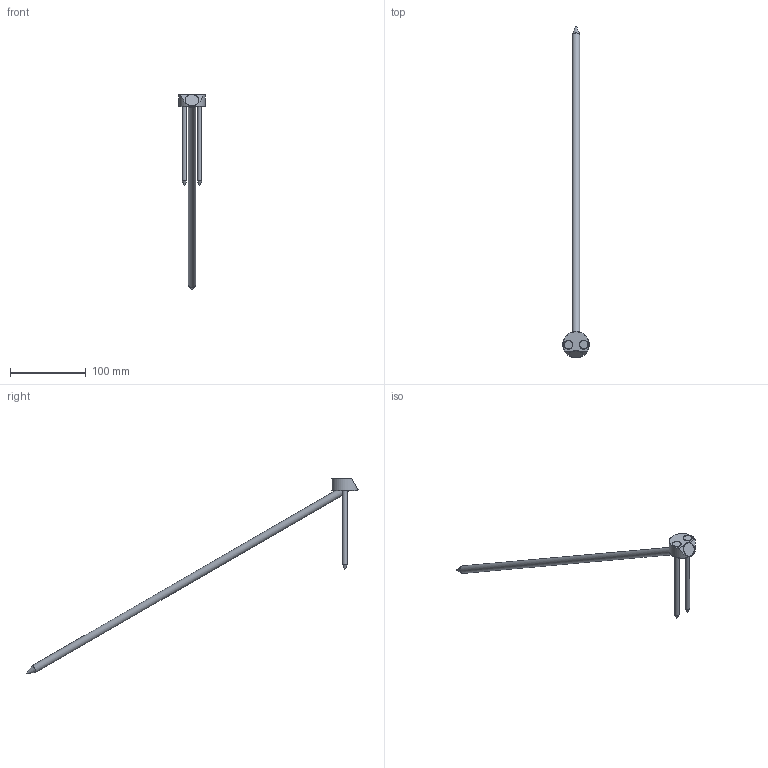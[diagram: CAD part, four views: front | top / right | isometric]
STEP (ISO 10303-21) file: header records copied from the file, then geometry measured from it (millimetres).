
FILE_DESCRIPTION(/* description */ ('Unknown'),/* implementation_level */ '2;1');
FILE_NAME(/* name */ 'T-Joint_D35_W30_2xSK6x120_1xSK10x500',/* time_stamp */ '2020-07-13T10:12:09+02:00',/* author */ ('Unknown'),/* organization */ ('Unknown'),/* preprocessor_version */ 'ST-DEVELOPER v16.7',/* originating_system */ 'DEX',/* authorisation */ $);
FILE_SCHEMA (('AUTOMOTIVE_DESIGN {1 0 10303 214 3 1 1}'));
Length unit declared in the file: millimetre
Products named in the file (4): T-Joint_D35_W30_2xSK6x120_1xSK10x500; T-Joint_D35_W30; SK Schraube 6x120_ohne_Gewinde; SK Schraube 10x500_ohne_Gewinde_22042020
Assembly tree (4 placements, depth 2):
  T-Joint_D35_W30_2xSK6x120_1xSK10x500
    T-Joint_D35_W30
    SK Schraube 6x120_ohne_Gewinde  x2
    SK Schraube 10x500_ohne_Gewinde_22042020
Bounding box: 34.79 x 437.78 x 258.2 mm (x, y, z)
Volume: 56337.4 mm3; surface area: 24888 mm2
Topology: 4 solids, 4 shells, 35 faces, 67 edges, 41 vertices
Faces by surface type: cylinder 12, plane 11, cone 9, torus 3
Full cylindrical faces by diameter (mm): 6 x2, 6.2 x2, 6.3 x1, 10 x2, 11 x2, 12.5 x1, 18 x1, 34.8 x1
Entity records: 738 total; most frequent: DIRECTION 128, CARTESIAN_POINT 111, ORIENTED_EDGE 68, AXIS2_PLACEMENT_3D 63, EDGE_LOOP 55, FACE_BOUND 55, EDGE_CURVE 34, VERTEX_POINT 31
